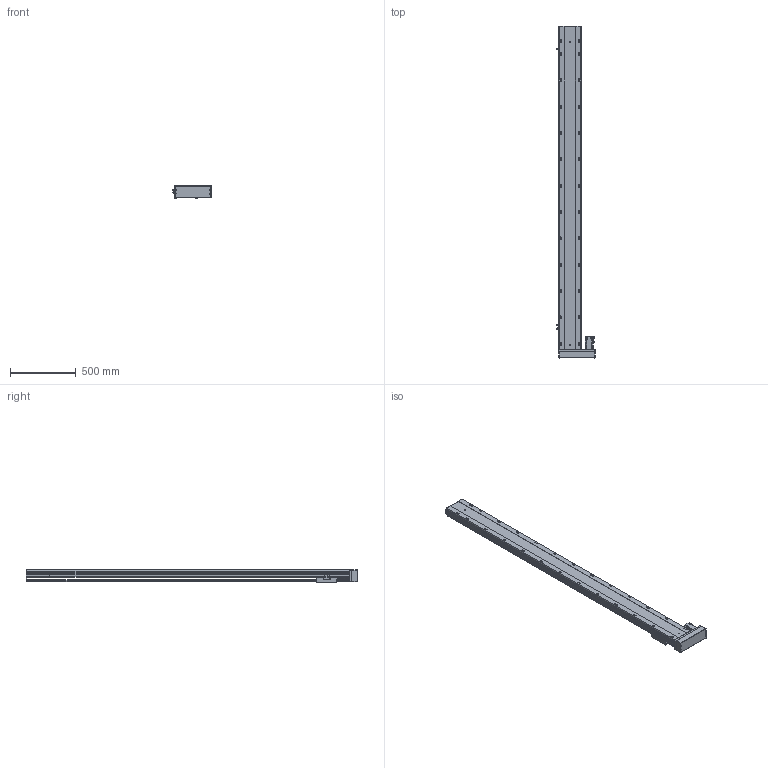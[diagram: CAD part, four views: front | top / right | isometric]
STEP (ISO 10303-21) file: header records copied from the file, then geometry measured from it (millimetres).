
FILE_DESCRIPTION (( 'STEP AP203' ), '1' );
FILE_NAME ('42.STEP', '2021-01-06T00:39:27', ( '' ), ( '' ), 'SwSTEP 2.0', 'SolidWorks 2016', '' );
FILE_SCHEMA (( 'CONFIG_CONTROL_DESIGN' ));
Length unit declared in the file: millimetre
Products named in the file (7): BTH17M-BR-菁釱; BTH17M-BR-02_100; BTH17M-BR-04; 42; BTH17M-BR-HZ; BTH17M-BR-T40; BTH17M-BR-01
Assembly tree (8 placements, depth 2):
  42
    BTH17M-BR-菁釱
    BTH17M-BR-01
    BTH17M-BR-04  x3
    BTH17M-BR-HZ
    BTH17M-BR-02_100
    BTH17M-BR-T40
Bounding box: 289.2 x 2521.2 x 97 mm (x, y, z)
Volume: 16644856.6 mm3; surface area: 2774820.7 mm2
Topology: 17 solids, 17 shells, 1452 faces, 3881 edges, 2471 vertices
Faces by surface type: plane 778, cylinder 554, cone 84, bspline 28, sphere 8
Entity records: 39887 total; most frequent: CARTESIAN_POINT 8633, DIRECTION 6398, ORIENTED_EDGE 6310, EDGE_CURVE 3155, AXIS2_PLACEMENT_3D 2236, VERTEX_POINT 2047, VECTOR 1926, LINE 1926
